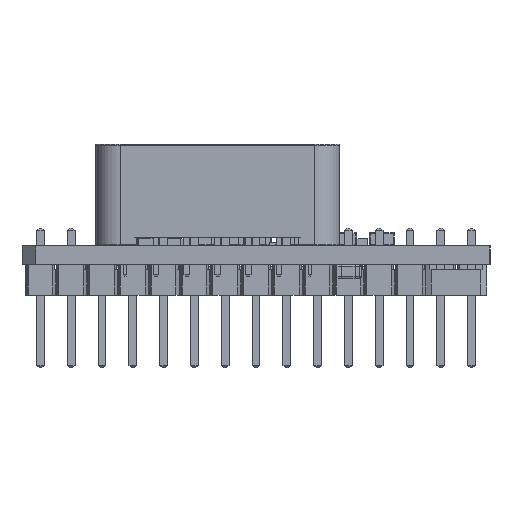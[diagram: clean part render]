
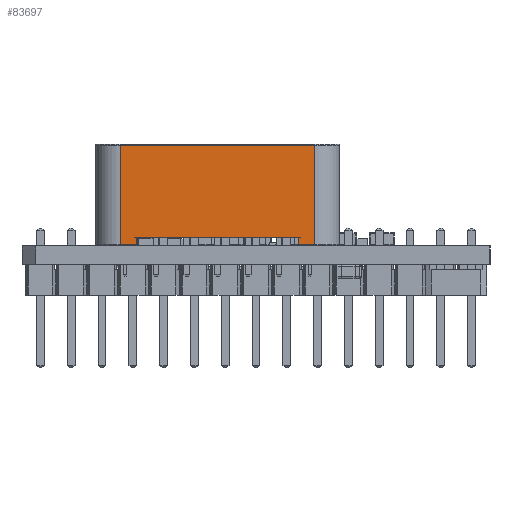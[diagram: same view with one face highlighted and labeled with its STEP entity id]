
A CAD part, left-side view. The second image highlights one B-rep face of the part: STEP entity #83697.
In plain terms, the highlighted planar face has unit normal (-1, 0, 0) as drawn and (1, 0, 0) by its records, which use the part's own axes.
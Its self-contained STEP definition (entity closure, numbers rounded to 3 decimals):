
#82812 = VERTEX_POINT('',#82813);
#82813 = CARTESIAN_POINT('',(8.763,0.7,-6.653));
#82819 = EDGE_CURVE('',#82820,#82812,#82822,.T.);
#82820 = VERTEX_POINT('',#82821);
#82821 = CARTESIAN_POINT('',(8.763,0.7,6.653));
#82822 = LINE('',#82823,#82824);
#82823 = CARTESIAN_POINT('',(8.763,0.7,10.033));
#82824 = VECTOR('',#82825,1.);
#82825 = DIRECTION('',(0.,0.,-1.));
#83697 = ADVANCED_FACE('',(#83698),#83755,.F.);
#83698 = FACE_BOUND('',#83699,.T.);
#83699 = EDGE_LOOP('',(#83700,#83708,#83716,#83724,#83732,#83740,#83748,
    #83754));
#83700 = ORIENTED_EDGE('',*,*,#83701,.F.);
#83701 = EDGE_CURVE('',#83702,#82812,#83704,.T.);
#83702 = VERTEX_POINT('',#83703);
#83703 = CARTESIAN_POINT('',(8.763,0.1,-6.653));
#83704 = LINE('',#83705,#83706);
#83705 = CARTESIAN_POINT('',(8.763,0.,-6.653));
#83706 = VECTOR('',#83707,1.);
#83707 = DIRECTION('',(0.,1.,0.));
#83708 = ORIENTED_EDGE('',*,*,#83709,.T.);
#83709 = EDGE_CURVE('',#83702,#83710,#83712,.T.);
#83710 = VERTEX_POINT('',#83711);
#83711 = CARTESIAN_POINT('',(8.763,0.1,-8.033));
#83712 = LINE('',#83713,#83714);
#83713 = CARTESIAN_POINT('',(8.763,0.1,10.033));
#83714 = VECTOR('',#83715,1.);
#83715 = DIRECTION('',(0.,0.,-1.));
#83716 = ORIENTED_EDGE('',*,*,#83717,.T.);
#83717 = EDGE_CURVE('',#83710,#83718,#83720,.T.);
#83718 = VERTEX_POINT('',#83719);
#83719 = CARTESIAN_POINT('',(8.763,8.3,-8.033));
#83720 = LINE('',#83721,#83722);
#83721 = CARTESIAN_POINT('',(8.763,8.4,-8.033));
#83722 = VECTOR('',#83723,1.);
#83723 = DIRECTION('',(0.,1.,0.));
#83724 = ORIENTED_EDGE('',*,*,#83725,.T.);
#83725 = EDGE_CURVE('',#83718,#83726,#83728,.T.);
#83726 = VERTEX_POINT('',#83727);
#83727 = CARTESIAN_POINT('',(8.763,8.3,8.033));
#83728 = LINE('',#83729,#83730);
#83729 = CARTESIAN_POINT('',(8.763,8.3,10.033));
#83730 = VECTOR('',#83731,1.);
#83731 = DIRECTION('',(0.,0.,1.));
#83732 = ORIENTED_EDGE('',*,*,#83733,.T.);
#83733 = EDGE_CURVE('',#83726,#83734,#83736,.T.);
#83734 = VERTEX_POINT('',#83735);
#83735 = CARTESIAN_POINT('',(8.763,0.1,8.033));
#83736 = LINE('',#83737,#83738);
#83737 = CARTESIAN_POINT('',(8.763,8.4,8.033));
#83738 = VECTOR('',#83739,1.);
#83739 = DIRECTION('',(0.,-1.,0.));
#83740 = ORIENTED_EDGE('',*,*,#83741,.T.);
#83741 = EDGE_CURVE('',#83734,#83742,#83744,.T.);
#83742 = VERTEX_POINT('',#83743);
#83743 = CARTESIAN_POINT('',(8.763,0.1,6.653));
#83744 = LINE('',#83745,#83746);
#83745 = CARTESIAN_POINT('',(8.763,0.1,10.033));
#83746 = VECTOR('',#83747,1.);
#83747 = DIRECTION('',(0.,0.,-1.));
#83748 = ORIENTED_EDGE('',*,*,#83749,.T.);
#83749 = EDGE_CURVE('',#83742,#82820,#83750,.T.);
#83750 = LINE('',#83751,#83752);
#83751 = CARTESIAN_POINT('',(8.763,0.,6.653));
#83752 = VECTOR('',#83753,1.);
#83753 = DIRECTION('',(0.,1.,0.));
#83754 = ORIENTED_EDGE('',*,*,#82819,.T.);
#83755 = PLANE('',#83756);
#83756 = AXIS2_PLACEMENT_3D('',#83757,#83758,#83759);
#83757 = CARTESIAN_POINT('',(8.763,8.4,10.033));
#83758 = DIRECTION('',(-1.,0.,0.));
#83759 = DIRECTION('',(0.,0.,1.));
